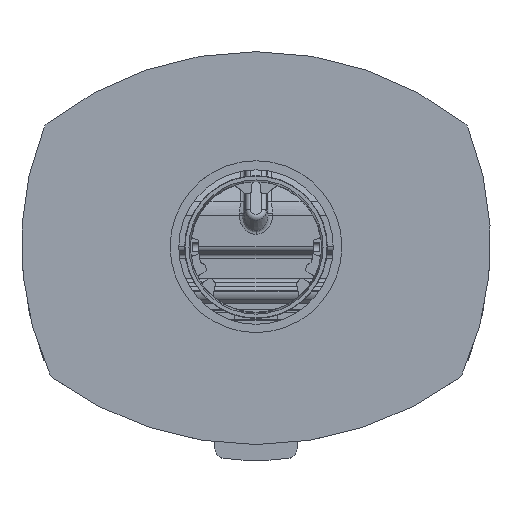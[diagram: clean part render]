
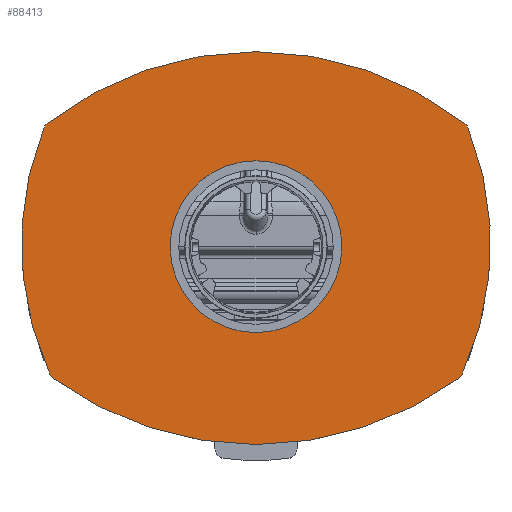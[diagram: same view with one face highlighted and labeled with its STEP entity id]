
A CAD part, top view. The second image highlights one B-rep face of the part: STEP entity #88413.
In plain terms, the highlighted planar face has unit normal (0, 0, 1).
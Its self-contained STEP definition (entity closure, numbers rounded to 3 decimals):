
#2676=FACE_BOUND('',#12084,.T.);
#7142=FACE_OUTER_BOUND('',#12083,.T.);
#12083=EDGE_LOOP('',(#76536,#76537,#76538,#76539,#76540,#76541,#76542,#76543));
#12084=EDGE_LOOP('',(#76544));
#32179=CIRCLE('',#96231,89.);
#32182=CIRCLE('',#96235,10.);
#32183=CIRCLE('',#96237,355.);
#32184=CIRCLE('',#96238,10.);
#32185=CIRCLE('',#96239,323.);
#32186=CIRCLE('',#96240,10.);
#32187=CIRCLE('',#96241,352.);
#32188=CIRCLE('',#96242,10.);
#32189=CIRCLE('',#96243,323.);
#39994=VERTEX_POINT('',#155083);
#39998=VERTEX_POINT('',#155092);
#39999=VERTEX_POINT('',#155094);
#40000=VERTEX_POINT('',#155098);
#40001=VERTEX_POINT('',#155100);
#40002=VERTEX_POINT('',#155102);
#40003=VERTEX_POINT('',#155104);
#40004=VERTEX_POINT('',#155106);
#40005=VERTEX_POINT('',#155108);
#52175=EDGE_CURVE('',#39994,#39994,#32179,.T.);
#52180=EDGE_CURVE('',#39998,#39999,#32182,.T.);
#52182=EDGE_CURVE('',#40000,#39998,#32183,.T.);
#52183=EDGE_CURVE('',#40001,#40000,#32184,.T.);
#52184=EDGE_CURVE('',#40002,#40001,#32185,.T.);
#52185=EDGE_CURVE('',#40003,#40002,#32186,.T.);
#52186=EDGE_CURVE('',#40004,#40003,#32187,.T.);
#52187=EDGE_CURVE('',#40005,#40004,#32188,.T.);
#52188=EDGE_CURVE('',#39999,#40005,#32189,.T.);
#76536=ORIENTED_EDGE('',*,*,#52180,.F.);
#76537=ORIENTED_EDGE('',*,*,#52182,.F.);
#76538=ORIENTED_EDGE('',*,*,#52183,.F.);
#76539=ORIENTED_EDGE('',*,*,#52184,.F.);
#76540=ORIENTED_EDGE('',*,*,#52185,.F.);
#76541=ORIENTED_EDGE('',*,*,#52186,.F.);
#76542=ORIENTED_EDGE('',*,*,#52187,.F.);
#76543=ORIENTED_EDGE('',*,*,#52188,.F.);
#76544=ORIENTED_EDGE('',*,*,#52175,.T.);
#79409=PLANE('',#96236);
#88413=ADVANCED_FACE('',(#7142,#2676),#79409,.F.);
#96231=AXIS2_PLACEMENT_3D('',#155084,#120078,#120079);
#96235=AXIS2_PLACEMENT_3D('',#155095,#120088,#120089);
#96236=AXIS2_PLACEMENT_3D('',#155097,#120091,#120092);
#96237=AXIS2_PLACEMENT_3D('',#155099,#120093,#120094);
#96238=AXIS2_PLACEMENT_3D('',#155101,#120095,#120096);
#96239=AXIS2_PLACEMENT_3D('',#155103,#120097,#120098);
#96240=AXIS2_PLACEMENT_3D('',#155105,#120099,#120100);
#96241=AXIS2_PLACEMENT_3D('',#155107,#120101,#120102);
#96242=AXIS2_PLACEMENT_3D('',#155109,#120103,#120104);
#96243=AXIS2_PLACEMENT_3D('',#155110,#120105,#120106);
#120078=DIRECTION('center_axis',(0.,0.,
-1.));
#120079=DIRECTION('ref_axis',(1.,0.,0.));
#120088=DIRECTION('center_axis',(0.,0.,
-1.));
#120089=DIRECTION('ref_axis',(-0.776,-0.631,0.));
#120091=DIRECTION('center_axis',(0.,0.,
-1.));
#120092=DIRECTION('ref_axis',(1.,0.,0.));
#120093=DIRECTION('center_axis',(0.,0.,
-1.));
#120094=DIRECTION('ref_axis',(0.599,-0.801,0.));
#120095=DIRECTION('center_axis',(0.,0.,
-1.));
#120096=DIRECTION('ref_axis',(0.776,-0.631,0.));
#120097=DIRECTION('center_axis',(0.,0.,
-1.));
#120098=DIRECTION('ref_axis',(0.924,0.382,0.));
#120099=DIRECTION('center_axis',(0.,0.,
-1.));
#120100=DIRECTION('ref_axis',(0.798,0.602,0.));
#120101=DIRECTION('center_axis',(0.,0.,
-1.));
#120102=DIRECTION('ref_axis',(-0.621,0.784,0.));
#120103=DIRECTION('center_axis',(0.,0.,
-1.));
#120104=DIRECTION('ref_axis',(-0.798,0.602,0.));
#120105=DIRECTION('center_axis',(0.,0.,
-1.));
#120106=DIRECTION('ref_axis',(-0.906,-0.424,0.));
#155083=CARTESIAN_POINT('',(-89.,-150.,572.));
#155084=CARTESIAN_POINT('Origin',(0.,-150.,572.));
#155092=CARTESIAN_POINT('',(-210.525,-285.84,572.));
#155094=CARTESIAN_POINT('',(-213.687,-281.95,572.));
#155095=CARTESIAN_POINT('Origin',(-204.595,-277.788,572.));
#155097=CARTESIAN_POINT('Origin',(0.,-151.453,
572.));
#155098=CARTESIAN_POINT('',(210.525,-285.84,572.));
#155099=CARTESIAN_POINT('Origin',(0.,0.,
572.));
#155100=CARTESIAN_POINT('',(213.687,-281.95,572.));
#155101=CARTESIAN_POINT('Origin',(204.595,-277.788,572.));
#155102=CARTESIAN_POINT('',(219.469,-26.473,572.));
#155103=CARTESIAN_POINT('Origin',(-80.,-147.5,572.));
#155104=CARTESIAN_POINT('',(216.343,-22.332,572.));
#155105=CARTESIAN_POINT('Origin',(210.197,-30.22,572.));
#155106=CARTESIAN_POINT('',(-216.343,-22.332,572.));
#155107=CARTESIAN_POINT('Origin',(0.,-300.,572.));
#155108=CARTESIAN_POINT('',(-219.469,-26.473,572.));
#155109=CARTESIAN_POINT('Origin',(-210.197,-30.22,572.));
#155110=CARTESIAN_POINT('Origin',(80.,-147.5,572.));
